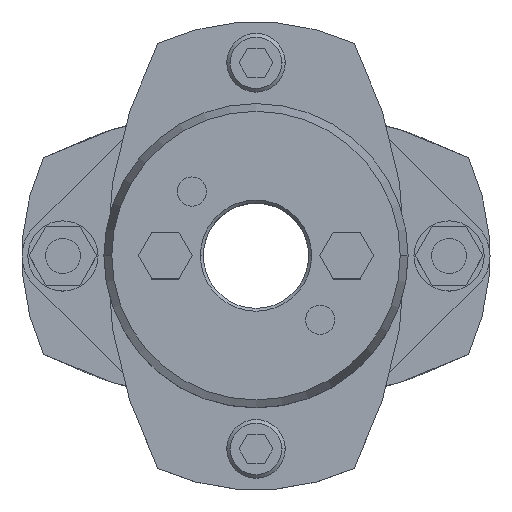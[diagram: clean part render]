
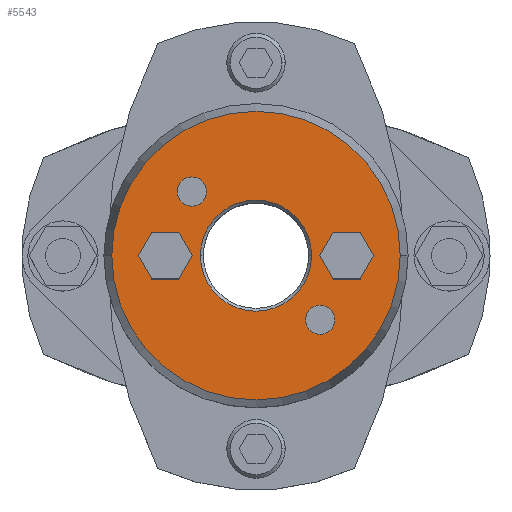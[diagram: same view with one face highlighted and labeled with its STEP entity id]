
A CAD part, top view. The second image highlights one B-rep face of the part: STEP entity #5543.
In plain terms, the highlighted planar face has unit normal (0, 0, 1).
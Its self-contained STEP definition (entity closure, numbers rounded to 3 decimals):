
#857=CARTESIAN_POINT('',(-9.5,0.,35.875));
#858=VERTEX_POINT('',#857);
#874=CARTESIAN_POINT('',(9.5,0.,35.875));
#875=VERTEX_POINT('',#874);
#882=CARTESIAN_POINT('',(0.,0.,35.875));
#883=DIRECTION('',(0.0,0.0,1.0));
#884=DIRECTION('',(-1.0,0.0,0.0));
#885=AXIS2_PLACEMENT_3D('',#882,#883,#884);
#886=CIRCLE('',#885,9.5);
#887=EDGE_CURVE('',#875,#858,#886,.T.);
#1045=CARTESIAN_POINT('',(24.66,0.,35.875));
#1046=VERTEX_POINT('',#1045);
#1053=CARTESIAN_POINT('',(-24.66,0.,35.875));
#1054=VERTEX_POINT('',#1053);
#1055=CARTESIAN_POINT('',(0.,0.,35.875));
#1056=DIRECTION('',(0.0,0.0,-1.0));
#1057=DIRECTION('',(1.0,0.0,0.0));
#1058=AXIS2_PLACEMENT_3D('',#1055,#1056,#1057);
#1059=CIRCLE('',#1058,24.66);
#1060=EDGE_CURVE('',#1046,#1054,#1059,.T.);
#1155=CARTESIAN_POINT('',(-13.46,10.96,35.875));
#1156=VERTEX_POINT('',#1155);
#1172=CARTESIAN_POINT('',(-8.46,10.96,35.875));
#1173=VERTEX_POINT('',#1172);
#1180=CARTESIAN_POINT('',(-10.96,10.96,35.875));
#1181=DIRECTION('',(0.0,0.0,-1.0));
#1182=DIRECTION('',(-1.0,0.0,0.0));
#1183=AXIS2_PLACEMENT_3D('',#1180,#1181,#1182);
#1184=CIRCLE('',#1183,2.5);
#1185=EDGE_CURVE('',#1156,#1173,#1184,.T.);
#1197=CARTESIAN_POINT('',(8.46,-10.96,35.875));
#1198=VERTEX_POINT('',#1197);
#1214=CARTESIAN_POINT('',(13.46,-10.96,35.875));
#1215=VERTEX_POINT('',#1214);
#1222=CARTESIAN_POINT('',(10.96,-10.96,35.875));
#1223=DIRECTION('',(0.0,0.0,-1.0));
#1224=DIRECTION('',(-1.0,0.0,0.0));
#1225=AXIS2_PLACEMENT_3D('',#1222,#1223,#1224);
#1226=CIRCLE('',#1225,2.5);
#1227=EDGE_CURVE('',#1198,#1215,#1226,.T.);
#4787=CARTESIAN_POINT('',(10.881,0.,35.875));
#4788=VERTEX_POINT('',#4787);
#4795=CARTESIAN_POINT('',(13.191,-4.,35.875));
#4796=VERTEX_POINT('',#4795);
#4797=CARTESIAN_POINT('',(13.191,-4.,35.875));
#4798=DIRECTION('',(-0.5,0.866,0.0));
#4799=VECTOR('',#4798,4.619);
#4800=LINE('',#4797,#4799);
#4801=EDGE_CURVE('',#4796,#4788,#4800,.T.);
#4825=CARTESIAN_POINT('',(13.191,4.,35.875));
#4826=VERTEX_POINT('',#4825);
#4833=CARTESIAN_POINT('',(10.881,0.,35.875));
#4834=DIRECTION('',(0.5,0.866,0.0));
#4835=VECTOR('',#4834,4.619);
#4836=LINE('',#4833,#4835);
#4837=EDGE_CURVE('',#4788,#4826,#4836,.T.);
#4856=CARTESIAN_POINT('',(17.809,4.,35.875));
#4857=VERTEX_POINT('',#4856);
#4864=CARTESIAN_POINT('',(13.191,4.,35.875));
#4865=DIRECTION('',(1.0,0.0,0.0));
#4866=VECTOR('',#4865,4.619);
#4867=LINE('',#4864,#4866);
#4868=EDGE_CURVE('',#4826,#4857,#4867,.T.);
#4887=CARTESIAN_POINT('',(20.119,0.,35.875));
#4888=VERTEX_POINT('',#4887);
#4895=CARTESIAN_POINT('',(17.809,4.,35.875));
#4896=DIRECTION('',(0.5,-0.866,0.0));
#4897=VECTOR('',#4896,4.619);
#4898=LINE('',#4895,#4897);
#4899=EDGE_CURVE('',#4857,#4888,#4898,.T.);
#4918=CARTESIAN_POINT('',(17.809,-4.,35.875));
#4919=VERTEX_POINT('',#4918);
#4926=CARTESIAN_POINT('',(20.119,0.,35.875));
#4927=DIRECTION('',(-0.5,-0.866,0.0));
#4928=VECTOR('',#4927,4.619);
#4929=LINE('',#4926,#4928);
#4930=EDGE_CURVE('',#4888,#4919,#4929,.T.);
#4948=CARTESIAN_POINT('',(17.809,-4.,35.875));
#4949=DIRECTION('',(-1.0,0.0,0.0));
#4950=VECTOR('',#4949,4.619);
#4951=LINE('',#4948,#4950);
#4952=EDGE_CURVE('',#4919,#4796,#4951,.T.);
#4987=CARTESIAN_POINT('',(-20.119,0.,35.875));
#4988=VERTEX_POINT('',#4987);
#4995=CARTESIAN_POINT('',(-17.809,-4.,35.875));
#4996=VERTEX_POINT('',#4995);
#4997=CARTESIAN_POINT('',(-17.809,-4.,35.875));
#4998=DIRECTION('',(-0.5,0.866,0.0));
#4999=VECTOR('',#4998,4.619);
#5000=LINE('',#4997,#4999);
#5001=EDGE_CURVE('',#4996,#4988,#5000,.T.);
#5025=CARTESIAN_POINT('',(-17.809,4.,35.875));
#5026=VERTEX_POINT('',#5025);
#5033=CARTESIAN_POINT('',(-20.119,0.,35.875));
#5034=DIRECTION('',(0.5,0.866,0.0));
#5035=VECTOR('',#5034,4.619);
#5036=LINE('',#5033,#5035);
#5037=EDGE_CURVE('',#4988,#5026,#5036,.T.);
#5056=CARTESIAN_POINT('',(-13.191,4.,35.875));
#5057=VERTEX_POINT('',#5056);
#5064=CARTESIAN_POINT('',(-17.809,4.,35.875));
#5065=DIRECTION('',(1.0,0.0,0.0));
#5066=VECTOR('',#5065,4.619);
#5067=LINE('',#5064,#5066);
#5068=EDGE_CURVE('',#5026,#5057,#5067,.T.);
#5087=CARTESIAN_POINT('',(-10.881,0.,35.875));
#5088=VERTEX_POINT('',#5087);
#5095=CARTESIAN_POINT('',(-13.191,4.,35.875));
#5096=DIRECTION('',(0.5,-0.866,0.0));
#5097=VECTOR('',#5096,4.619);
#5098=LINE('',#5095,#5097);
#5099=EDGE_CURVE('',#5057,#5088,#5098,.T.);
#5118=CARTESIAN_POINT('',(-13.191,-4.,35.875));
#5119=VERTEX_POINT('',#5118);
#5126=CARTESIAN_POINT('',(-10.881,0.,35.875));
#5127=DIRECTION('',(-0.5,-0.866,0.0));
#5128=VECTOR('',#5127,4.619);
#5129=LINE('',#5126,#5128);
#5130=EDGE_CURVE('',#5088,#5119,#5129,.T.);
#5148=CARTESIAN_POINT('',(-13.191,-4.,35.875));
#5149=DIRECTION('',(-1.0,0.0,0.0));
#5150=VECTOR('',#5149,4.619);
#5151=LINE('',#5148,#5150);
#5152=EDGE_CURVE('',#5119,#4996,#5151,.T.);
#5178=CARTESIAN_POINT('',(10.96,-10.96,35.875));
#5179=DIRECTION('',(0.0,0.0,-1.0));
#5180=DIRECTION('',(-1.0,0.0,0.0));
#5181=AXIS2_PLACEMENT_3D('',#5178,#5179,#5180);
#5182=CIRCLE('',#5181,2.5);
#5183=EDGE_CURVE('',#1215,#1198,#5182,.T.);
#5212=CARTESIAN_POINT('',(-10.96,10.96,35.875));
#5213=DIRECTION('',(0.0,0.0,-1.0));
#5214=DIRECTION('',(-1.0,0.0,0.0));
#5215=AXIS2_PLACEMENT_3D('',#5212,#5213,#5214);
#5216=CIRCLE('',#5215,2.5);
#5217=EDGE_CURVE('',#1173,#1156,#5216,.T.);
#5490=CARTESIAN_POINT('',(0.,0.,35.875));
#5491=DIRECTION('',(0.0,0.0,-1.0));
#5492=DIRECTION('',(1.0,0.0,0.0));
#5493=AXIS2_PLACEMENT_3D('',#5490,#5491,#5492);
#5494=CIRCLE('',#5493,24.66);
#5495=EDGE_CURVE('',#1054,#1046,#5494,.T.);
#5500=CARTESIAN_POINT('',(-2.364,0.,35.875));
#5501=DIRECTION('',(0.0,0.0,1.0));
#5502=DIRECTION('',(-1.0,0.0,0.0));
#5503=AXIS2_PLACEMENT_3D('',#5500,#5501,#5502);
#5504=PLANE('',#5503);
#5505=ORIENTED_EDGE('',*,*,#5495,.F.);
#5506=ORIENTED_EDGE('',*,*,#1060,.F.);
#5507=EDGE_LOOP('',(#5505,#5506));
#5508=FACE_OUTER_BOUND('',#5507,.T.);
#5509=ORIENTED_EDGE('',*,*,#4801,.T.);
#5510=ORIENTED_EDGE('',*,*,#4837,.T.);
#5511=ORIENTED_EDGE('',*,*,#4868,.T.);
#5512=ORIENTED_EDGE('',*,*,#4899,.T.);
#5513=ORIENTED_EDGE('',*,*,#4930,.T.);
#5514=ORIENTED_EDGE('',*,*,#4952,.T.);
#5515=EDGE_LOOP('',(#5509,#5510,#5511,#5512,#5513,#5514));
#5516=FACE_BOUND('',#5515,.T.);
#5517=ORIENTED_EDGE('',*,*,#5001,.T.);
#5518=ORIENTED_EDGE('',*,*,#5037,.T.);
#5519=ORIENTED_EDGE('',*,*,#5068,.T.);
#5520=ORIENTED_EDGE('',*,*,#5099,.T.);
#5521=ORIENTED_EDGE('',*,*,#5130,.T.);
#5522=ORIENTED_EDGE('',*,*,#5152,.T.);
#5523=EDGE_LOOP('',(#5517,#5518,#5519,#5520,#5521,#5522));
#5524=FACE_BOUND('',#5523,.T.);
#5525=ORIENTED_EDGE('',*,*,#1227,.T.);
#5526=ORIENTED_EDGE('',*,*,#5183,.T.);
#5527=EDGE_LOOP('',(#5525,#5526));
#5528=FACE_BOUND('',#5527,.T.);
#5529=ORIENTED_EDGE('',*,*,#1185,.T.);
#5530=ORIENTED_EDGE('',*,*,#5217,.T.);
#5531=EDGE_LOOP('',(#5529,#5530));
#5532=FACE_BOUND('',#5531,.T.);
#5533=ORIENTED_EDGE('',*,*,#887,.F.);
#5534=CARTESIAN_POINT('',(0.,0.,35.875));
#5535=DIRECTION('',(0.0,0.0,1.0));
#5536=DIRECTION('',(-1.0,0.0,0.0));
#5537=AXIS2_PLACEMENT_3D('',#5534,#5535,#5536);
#5538=CIRCLE('',#5537,9.5);
#5539=EDGE_CURVE('',#858,#875,#5538,.T.);
#5540=ORIENTED_EDGE('',*,*,#5539,.F.);
#5541=EDGE_LOOP('',(#5533,#5540));
#5542=FACE_BOUND('',#5541,.T.);
#5543=ADVANCED_FACE('',(#5508,#5516,#5524,#5528,#5532,#5542),#5504,.T.);
